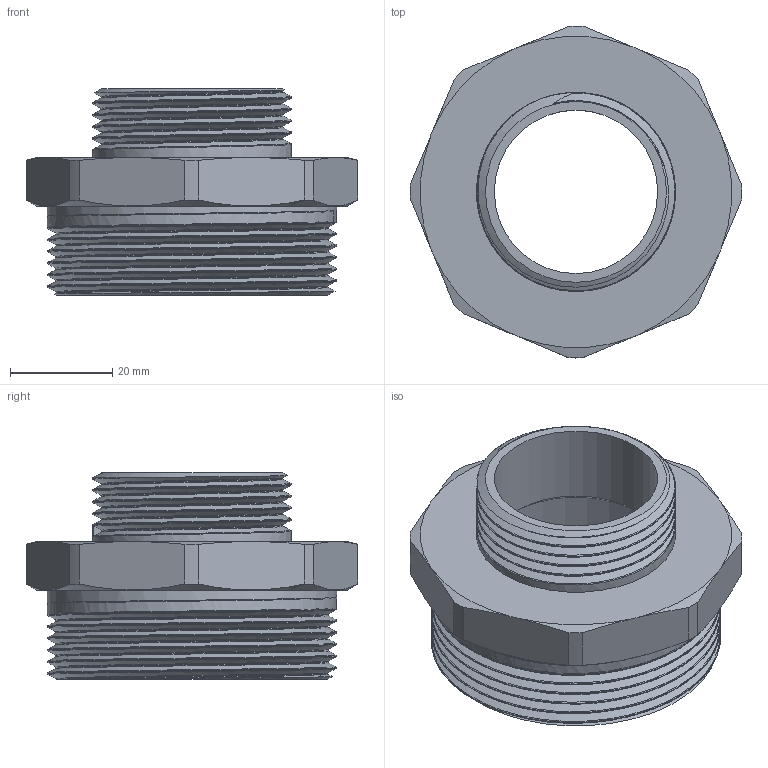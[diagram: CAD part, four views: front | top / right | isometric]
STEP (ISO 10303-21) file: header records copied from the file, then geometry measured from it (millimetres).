
FILE_DESCRIPTION(/* description */ (''),/* implementation_level */ '2;1');
FILE_NAME(/* name */ 'C:\Users\Doom\Desktop\Фадотех\Резьба\N23 17.03.2020\N23 17.03.2020.stp',/* time_stamp */ '2022-01-08T16:52:49+02:00',/* author */ ('Doom'),/* organization */ (''),/* preprocessor_version */ 'ST-DEVELOPER v18',/* originating_system */ 'Autodesk Inventor 2020',/* authorisation */ '');
FILE_SCHEMA (('AUTOMOTIVE_DESIGN { 1 0 10303 214 3 1 1 }'));
Length unit declared in the file: millimetre
Products named in the file (1): N23 17.03.2020
Bounding box: 65 x 65 x 40.5 mm (x, y, z)
Volume: 24362.5 mm3; surface area: 19889.6 mm2
Topology: 1 solids, 1 shells, 62 faces, 174 edges, 117 vertices
Faces by surface type: cylinder 23, plane 15, cone 12, bspline 12
Full cylindrical faces by diameter (mm): 32 x1, 38.95 x4, 50.5 x1, 56.65 x6
Entity records: 8226 total; most frequent: CARTESIAN_POINT 6730, ORIENTED_EDGE 348, DIRECTION 253, EDGE_CURVE 174, VERTEX_POINT 117, AXIS2_PLACEMENT_3D 102, EDGE_LOOP 67, ADVANCED_FACE 62
